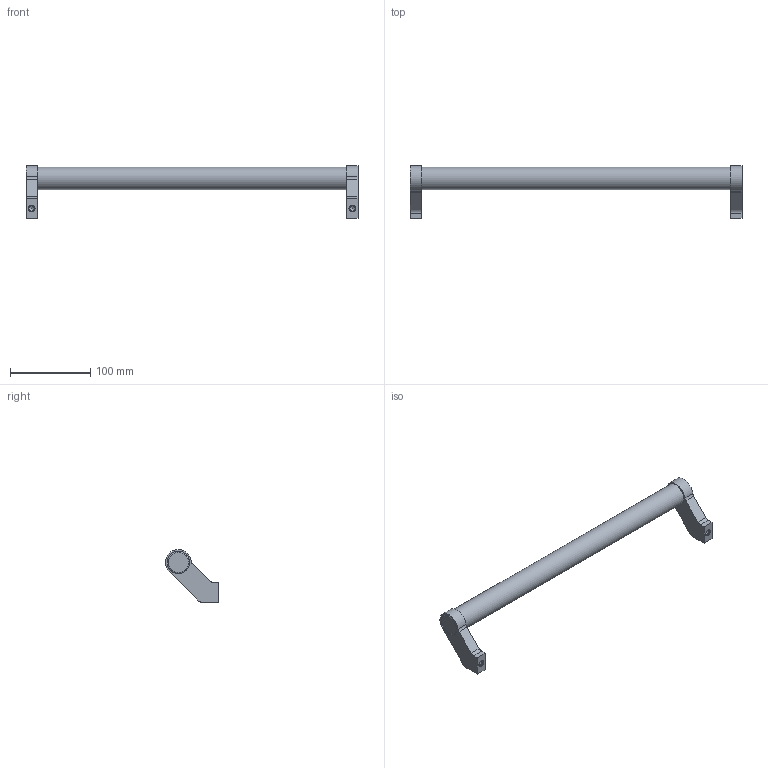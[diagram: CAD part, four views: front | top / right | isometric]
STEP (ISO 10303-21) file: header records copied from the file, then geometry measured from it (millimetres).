
FILE_DESCRIPTION( ( 'STEP AP203' ), '1' );
FILE_NAME( 'C:/Temp/Ganter_Step_05_03_2020/data/1_2/gn333/Tubular handle GN 333-28-400-A-ES.stp', '2020-03-05T10:16:17', ( 'License CC BY-ND 4.0' ), ( 'CADENAS' ), ' ', 'PARTsolutions', ' ' );
FILE_SCHEMA( ( 'CONFIG_CONTROL_DESIGN' ) );
Length unit declared in the file: millimetre
Products named in the file (1): _Tubular handle GN 333-28-400-A-ES
Bounding box: 414 x 65.95 x 65.97 mm (x, y, z)
Volume: 298221.8 mm3; surface area: 48652.7 mm2
Topology: 1 solids, 1 shells, 47 faces, 110 edges, 71 vertices
Faces by surface type: plane 26, cylinder 15, cone 4, torus 2
Full cylindrical faces by diameter (mm): 6.647 x2, 8.5 x2, 28 x3
Entity records: 1348 total; most frequent: CARTESIAN_POINT 278, DIRECTION 218, ORIENTED_EDGE 188, EDGE_CURVE 94, AXIS2_PLACEMENT_3D 84, VERTEX_POINT 68, EDGE_LOOP 64, FACE_OUTER_BOUND 54
